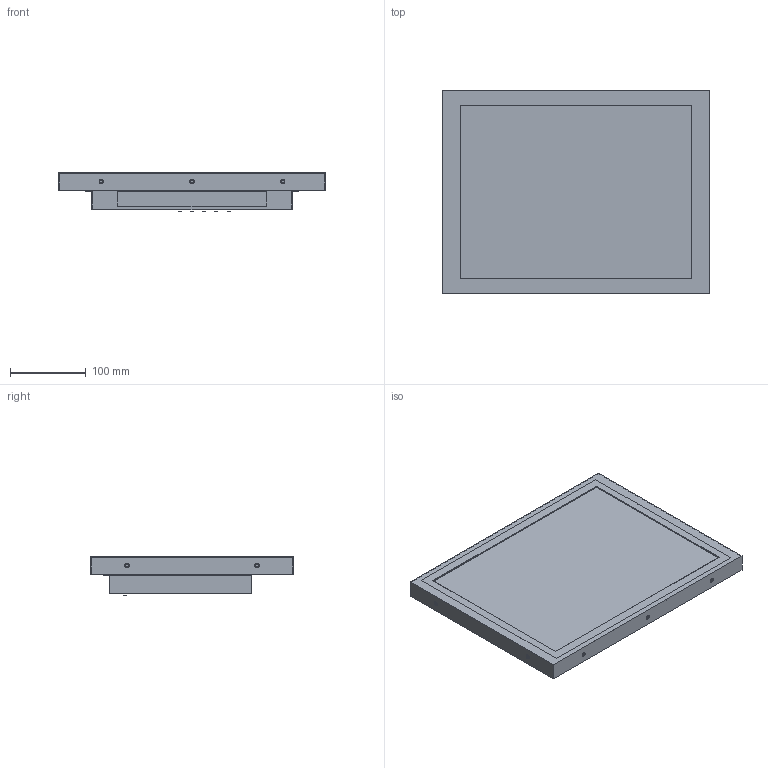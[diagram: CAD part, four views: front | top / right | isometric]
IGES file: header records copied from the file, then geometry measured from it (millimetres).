
Global section: file name: FIE150GM; native system: AutoCAD 2019 – 繁體中文 (Traditional Chinese),62HAutode; preprocessor: sk Translation Framework DWG producer (atf_dwg_producer); organization: unknown; date: 20210628.165412; units: millimetre
Bounding box: 352.7 x 268.3 x 50.5 mm (x, y, z)
Volume: 1160016.7 mm3; surface area: 1019555.1 mm2
Topology: 11 solids, 11 shells, 959 faces, 2357 edges, 1572 vertices
Faces by surface type: bspline 959
